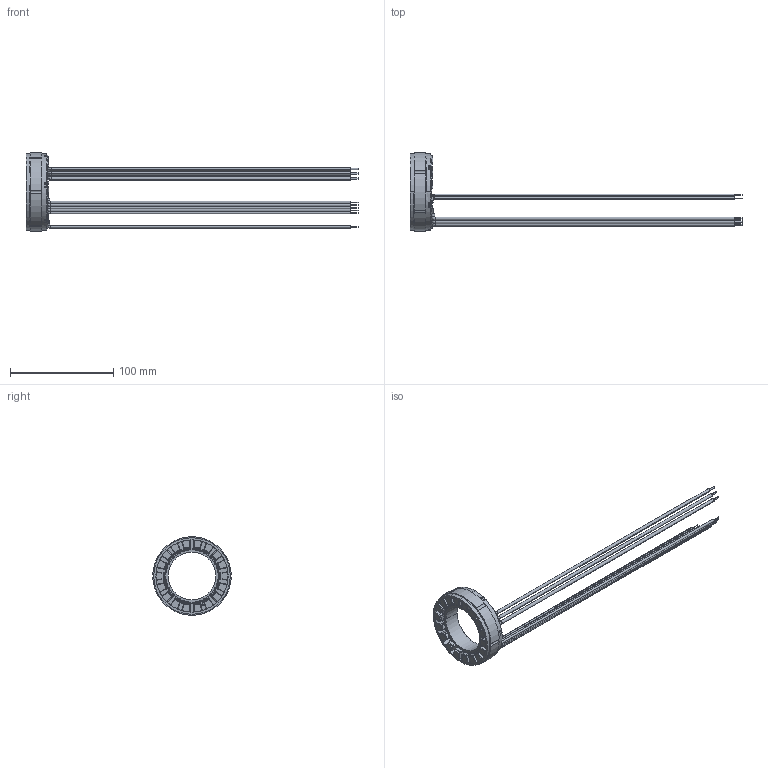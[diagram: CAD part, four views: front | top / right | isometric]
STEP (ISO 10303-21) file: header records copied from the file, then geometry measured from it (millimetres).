
FILE_DESCRIPTION((''),'2;1');
FILE_NAME('12569156_SW0001','2026-04-22T13:26:52',('MMKMJISU'),(''),'CREO PARAMETRIC BY PTC INC, 2022484','CREO PARAMETRIC BY PTC INC, 2022484','');
FILE_SCHEMA(('CONFIG_CONTROL_DESIGN','SHAPE_APPEARANCE_LAYERS_GROUPS'));
Products named in the file (1): 12569156_SW0001
Bounding box: 321.16 x 75.94 x 76 mm (x, y, z)
Volume: 55555.2 mm3; surface area: 57468.2 mm2
Topology: 2 solids, 2 shells, 3000 faces, 8366 edges, 5239 vertices
Faces by surface type: plane 1422, cylinder 1010, bspline 292, torus 272, revolution 2, sphere 2
Entity records: 142948 total; most frequent: CARTESIAN_POINT 57645, ORIENTED_EDGE 16728, DIRECTION 15606, EDGE_CURVE 8364, AXIS2_PLACEMENT_3D 5627, VERTEX_POINT 5239, VECTOR 4350, LINE 4350
